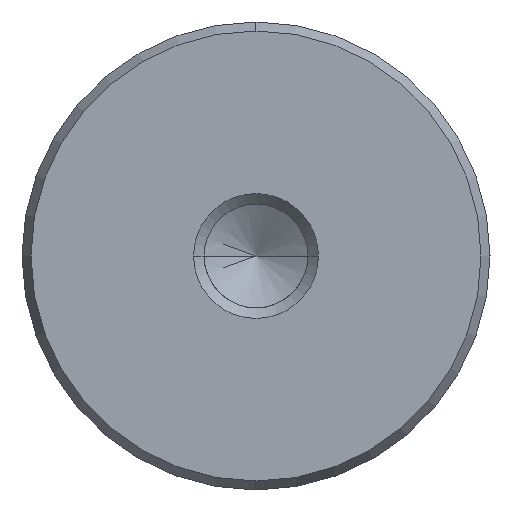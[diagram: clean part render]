
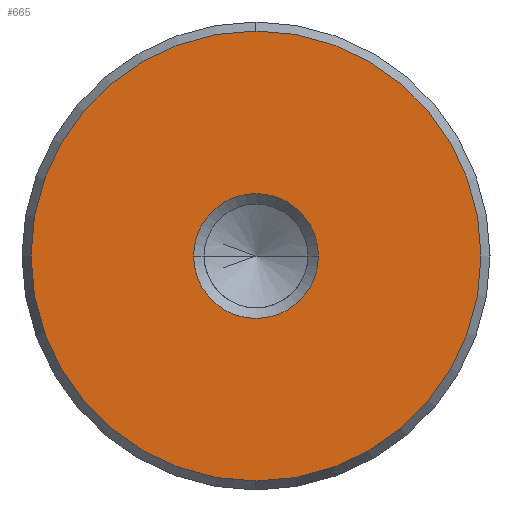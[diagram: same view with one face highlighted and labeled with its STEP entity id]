
A CAD part, left-side view. The second image highlights one B-rep face of the part: STEP entity #665.
In plain terms, the highlighted planar face has unit normal (-1, 0, 0).
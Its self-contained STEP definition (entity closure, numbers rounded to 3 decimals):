
#579=CARTESIAN_POINT('Vertex',(0.,0.,-14.423)) ;
#582=CARTESIAN_POINT('Axis2P3D Location',(0.,0.,0.)) ;
#586=CARTESIAN_POINT('Vertex',(0.,14.423,0.)) ;
#589=CARTESIAN_POINT('Axis2P3D Location',(0.,0.,0.)) ;
#593=CARTESIAN_POINT('Vertex',(0.,0.,14.423)) ;
#615=CARTESIAN_POINT('Axis2P3D Location',(0.,0.,0.)) ;
#619=CARTESIAN_POINT('Vertex',(0.,-14.423,0.)) ;
#622=CARTESIAN_POINT('Axis2P3D Location',(0.,0.,0.)) ;
#636=CARTESIAN_POINT('Axis2P3D Location',(0.,0.,0.)) ;
#647=CARTESIAN_POINT('Axis2P3D Location',(0.,0.,0.)) ;
#651=CARTESIAN_POINT('Vertex',(0.,4.,0.)) ;
#653=CARTESIAN_POINT('Vertex',(0.,-4.,0.)) ;
#656=CARTESIAN_POINT('Axis2P3D Location',(0.,0.,0.)) ;
#583=DIRECTION('Axis2P3D Direction',(1.,0.,-0.)) ;
#590=DIRECTION('Axis2P3D Direction',(1.,0.,-0.)) ;
#616=DIRECTION('Axis2P3D Direction',(1.,0.,-0.)) ;
#623=DIRECTION('Axis2P3D Direction',(1.,0.,-0.)) ;
#637=DIRECTION('Axis2P3D Direction',(1.,0.,-0.)) ;
#638=DIRECTION('Axis2P3D XDirection',(-0.,0.,-1.)) ;
#648=DIRECTION('Axis2P3D Direction',(1.,0.,-0.)) ;
#657=DIRECTION('Axis2P3D Direction',(1.,0.,-0.)) ;
#584=AXIS2_PLACEMENT_3D('Circle Axis2P3D',#582,#583,$) ;
#591=AXIS2_PLACEMENT_3D('Circle Axis2P3D',#589,#590,$) ;
#617=AXIS2_PLACEMENT_3D('Circle Axis2P3D',#615,#616,$) ;
#624=AXIS2_PLACEMENT_3D('Circle Axis2P3D',#622,#623,$) ;
#639=AXIS2_PLACEMENT_3D('Plane Axis2P3D',#636,#637,#638) ;
#649=AXIS2_PLACEMENT_3D('Circle Axis2P3D',#647,#648,$) ;
#658=AXIS2_PLACEMENT_3D('Circle Axis2P3D',#656,#657,$) ;
#642=ORIENTED_EDGE('',*,*,#588,.F.) ;
#643=ORIENTED_EDGE('',*,*,#626,.F.) ;
#644=ORIENTED_EDGE('',*,*,#621,.F.) ;
#645=ORIENTED_EDGE('',*,*,#595,.F.) ;
#662=ORIENTED_EDGE('',*,*,#655,.T.) ;
#663=ORIENTED_EDGE('',*,*,#660,.T.) ;
#664=FACE_BOUND('',#661,.T.) ;
#665=ADVANCED_FACE('720-30x355',(#646,#664),#640,.F.) ;
#585=CIRCLE('generated circle',#584,14.423) ;
#592=CIRCLE('generated circle',#591,14.423) ;
#618=CIRCLE('generated circle',#617,14.423) ;
#625=CIRCLE('generated circle',#624,14.423) ;
#650=CIRCLE('generated circle',#649,4.) ;
#659=CIRCLE('generated circle',#658,4.) ;
#588=EDGE_CURVE('',#580,#587,#585,.T.) ;
#595=EDGE_CURVE('',#587,#594,#592,.T.) ;
#621=EDGE_CURVE('',#594,#620,#618,.T.) ;
#626=EDGE_CURVE('',#620,#580,#625,.T.) ;
#655=EDGE_CURVE('',#652,#654,#650,.T.) ;
#660=EDGE_CURVE('',#654,#652,#659,.T.) ;
#641=EDGE_LOOP('',(#642,#643,#644,#645)) ;
#661=EDGE_LOOP('',(#662,#663)) ;
#646=FACE_OUTER_BOUND('',#641,.T.) ;
#640=PLANE('Plane',#639) ;
#580=VERTEX_POINT('',#579) ;
#587=VERTEX_POINT('',#586) ;
#594=VERTEX_POINT('',#593) ;
#620=VERTEX_POINT('',#619) ;
#652=VERTEX_POINT('',#651) ;
#654=VERTEX_POINT('',#653) ;
